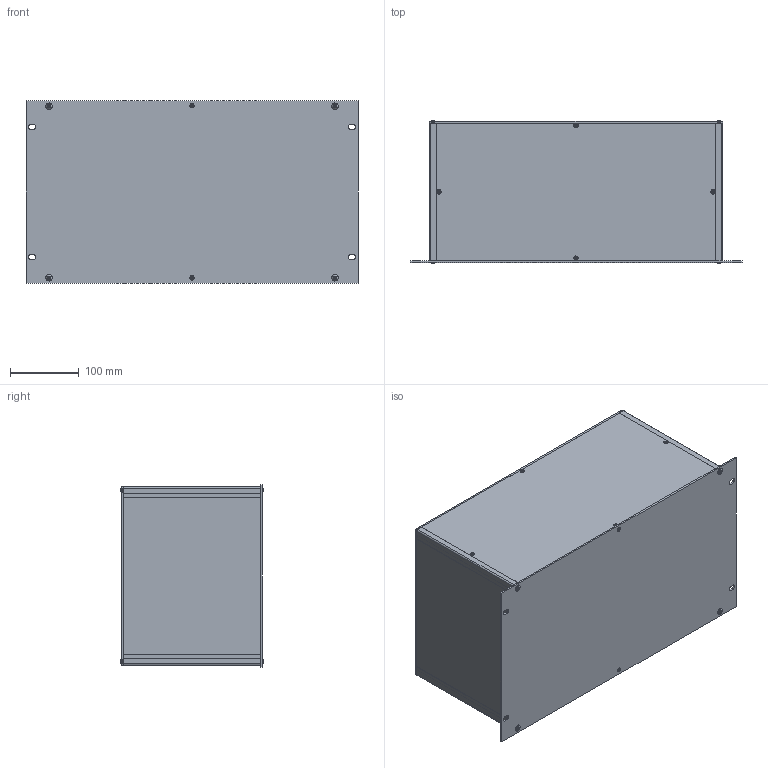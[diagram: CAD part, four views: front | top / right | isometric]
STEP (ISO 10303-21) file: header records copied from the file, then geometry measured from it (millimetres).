
FILE_DESCRIPTION(/* description */ (''),/* implementation_level */ '2;1');
FILE_NAME(/* name */ '//diskstation/Kunden/Gehäuse/Gehäuse/6HE/step/Zoll 6HE Rack Gehäuse Tiefe-200.step',/* time_stamp */ '2022-02-17T16:59:18+01:00',/* author */ (''),/* organization */ (''),/* preprocessor_version */ 'ST-DEVELOPER v18.1',/* originating_system */ 'Autodesk Translation Framework v10.10.0.1391',/* authorisation */ '');
FILE_SCHEMA (('AUTOMOTIVE_DESIGN { 1 0 10303 214 3 1 1 }'));
Length unit declared in the file: millimetre
Products named in the file (28): 6HE Gehäuse mit parametern; Gehäuse; Gehäuseprofil 1 unten links; Gehäuseprofil 2 oben rechts; Gehäuseprofil 1 unten rechts; Gehäuseprofil 2 oben links; Rückplatte; Deckel; Seitenteil links; Seitenteil rechts; Bodenplatte; Montageklotz Front/Deckel; Montageklotz Front/Boden; Montageklotz Rück/Deckel; Montageklotz Rück/Boden; Gewindestreifen; Frontplatte; Schrauben M5; Schraube Front; Schraube Front (1); Schraube Front (2); Schraube Front (3); Schraube Rück (1); Schraube Rück; Schraube Rück (2); Schraube Rück (3); Schrauben M3; HI_Senkschraube DIN 965 A v2 M3x5 24677.030.005(High)
Assembly tree (37 placements, depth 3):
  6HE Gehäuse mit parametern
    Gehäuse
      Gehäuseprofil 1 unten links
      Gehäuseprofil 2 oben rechts
      Gehäuseprofil 1 unten rechts
      Gehäuseprofil 2 oben links
      Rückplatte
      Deckel
      Seitenteil links
      Seitenteil rechts
      Bodenplatte
      Montageklotz Front/Deckel
      Montageklotz Front/Boden
      Montageklotz Rück/Deckel
      Montageklotz Rück/Boden
      Gewindestreifen  x2
    Frontplatte
    Schrauben M5
      Schraube Front
      Schraube Front (1)
      Schraube Front (2)
      Schraube Front (3)
      Schraube Rück (1)
      Schraube Rück
      Schraube Rück (2)
      Schraube Rück (3)
    Schrauben M3
      HI_Senkschraube DIN 965 A v2 M3x5 24677.030.005(High)  x10
Bounding box: 483 x 208.2 x 265 mm (x, y, z)
Volume: 1284590.7 mm3; surface area: 1097349.1 mm2
Topology: 34 solids, 34 shells, 834 faces, 2016 edges, 1250 vertices
Faces by surface type: plane 342, cylinder 312, cone 164, torus 8, bspline 8
Full cylindrical faces by diameter (mm): 2.529 x70, 3 x10, 3.2 x10, 4.234 x40, 5 x8, 5.2 x4, 5.3 x8, 5.6 x10, 9.5 x8
Entity records: 16455 total; most frequent: CARTESIAN_POINT 3018, DIRECTION 2750, ORIENTED_EDGE 2430, EDGE_CURVE 1215, AXIS2_PLACEMENT_3D 1030, VERTEX_POINT 758, EDGE_LOOP 701, LINE 690
